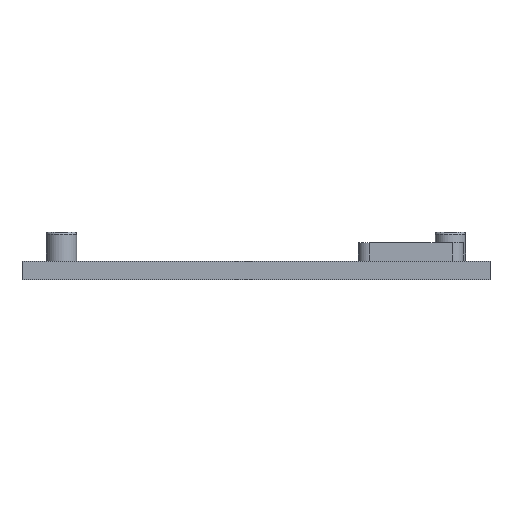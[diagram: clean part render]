
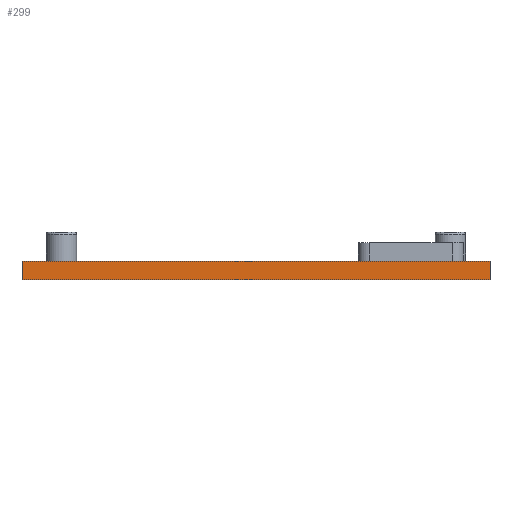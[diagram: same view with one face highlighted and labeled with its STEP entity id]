
A CAD part, front view. The second image highlights one B-rep face of the part: STEP entity #299.
In plain terms, the highlighted planar face has unit normal (0, -1, 0).
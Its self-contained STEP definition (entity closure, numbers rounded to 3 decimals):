
#42 = EDGE_CURVE ( 'NONE', #460, #450, #106, .T. ) ;
#105 = VECTOR ( 'NONE', #512, 1000. ) ;
#106 = LINE ( 'NONE', #511, #105 ) ;
#149 = FACE_OUTER_BOUND ( 'NONE', #928, .T. ) ;
#299 = ADVANCED_FACE ( 'NONE', ( #149 ), #731, .F. ) ;
#332 = AXIS2_PLACEMENT_3D ( 'NONE', #730, #737, #738 ) ;
#406 = EDGE_CURVE ( 'NONE', #432, #460, #884, .T. ) ;
#407 = EDGE_CURVE ( 'NONE', #432, #427, #882, .T. ) ;
#408 = EDGE_CURVE ( 'NONE', #427, #450, #880, .T. ) ;
#427 = VERTEX_POINT ( 'NONE', #799 ) ;
#432 = VERTEX_POINT ( 'NONE', #804 ) ;
#450 = VERTEX_POINT ( 'NONE', #822 ) ;
#460 = VERTEX_POINT ( 'NONE', #832 ) ;
#511 = CARTESIAN_POINT ( 'NONE',  ( 14.67, 10.3, -55.4 ) ) ;
#512 = DIRECTION ( 'NONE',  ( -1., 0., 0. ) ) ;
#730 = CARTESIAN_POINT ( 'NONE',  ( 14.67, 10.3, -57. ) ) ;
#731 = PLANE ( 'NONE',  #332 ) ;
#737 = DIRECTION ( 'NONE',  ( 0., 1., 0. ) ) ;
#738 = DIRECTION ( 'NONE',  ( -1., 0., 0. ) ) ;
#777 = CARTESIAN_POINT ( 'NONE',  ( 20.1, 10.3, -57. ) ) ;
#778 = DIRECTION ( 'NONE',  ( 0., 0., 1. ) ) ;
#779 = CARTESIAN_POINT ( 'NONE',  ( 14.67, 10.3, -57. ) ) ;
#780 = DIRECTION ( 'NONE',  ( -1., 0., 0. ) ) ;
#781 = CARTESIAN_POINT ( 'NONE',  ( -20.1, 10.3, -57. ) ) ;
#782 = DIRECTION ( 'NONE',  ( 0., 0., 1. ) ) ;
#799 = CARTESIAN_POINT ( 'NONE',  ( -20.1, 10.3, -57. ) ) ;
#804 = CARTESIAN_POINT ( 'NONE',  ( 20.1, 10.3, -57. ) ) ;
#822 = CARTESIAN_POINT ( 'NONE',  ( -20.1, 10.3, -55.4 ) ) ;
#832 = CARTESIAN_POINT ( 'NONE',  ( 20.1, 10.3, -55.4 ) ) ;
#879 = VECTOR ( 'NONE', #782, 1000. ) ;
#880 = LINE ( 'NONE', #781, #879 ) ;
#881 = VECTOR ( 'NONE', #780, 1000. ) ;
#882 = LINE ( 'NONE', #779, #881 ) ;
#883 = VECTOR ( 'NONE', #778, 1000. ) ;
#884 = LINE ( 'NONE', #777, #883 ) ;
#928 = EDGE_LOOP ( 'NONE', ( #1035, #1013, #1087, #1037 ) ) ;
#1013 = ORIENTED_EDGE ( 'NONE', *, *, #408, .F. ) ;
#1035 = ORIENTED_EDGE ( 'NONE', *, *, #42, .T. ) ;
#1037 = ORIENTED_EDGE ( 'NONE', *, *, #406, .T. ) ;
#1087 = ORIENTED_EDGE ( 'NONE', *, *, #407, .F. ) ;
